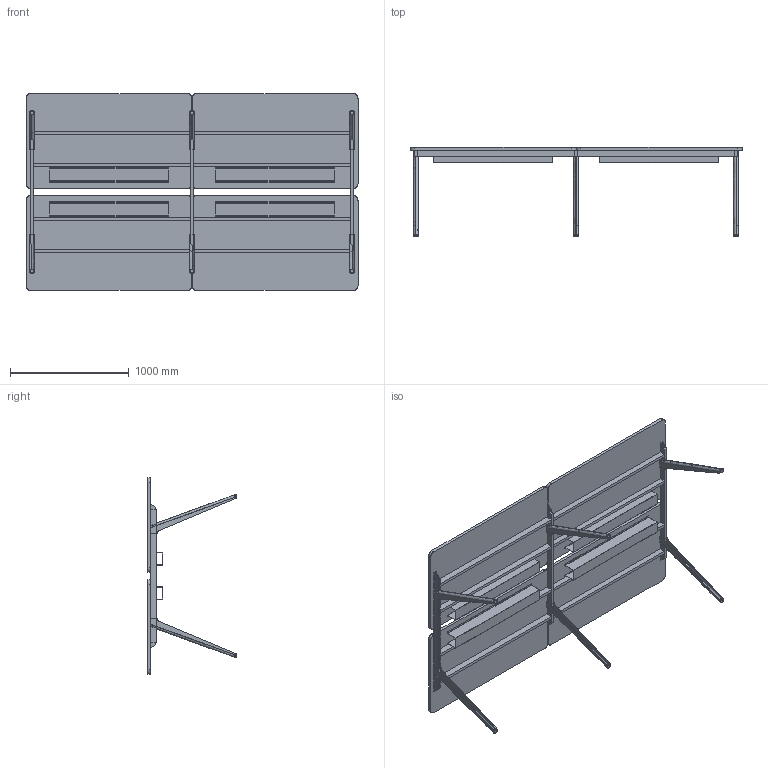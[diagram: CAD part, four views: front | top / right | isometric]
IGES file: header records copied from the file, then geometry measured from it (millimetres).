
Start section: SolidWorks IGES file using analytic representation for surfaces
Global section: file name: C:\Users\simone.cerana\OneDrive - Gruppo Tecno\Desktop\CHINA\DISEGNI DI SERIE\ASSIEMI LISTINO\HORIZON LISTINO\FULL OPTIONAL\HO2816FO.IGS; native system: SolidWorks 2024; preprocessor: SolidWorks 2024; author: simone.cerana; date: 260512.152329; units: millimetre
Bounding box: 2801 x 750.58 x 1660 mm (x, y, z)
Surface area: 14429283.4 mm2 (no closed solid volume)
Topology: 0 solids, 0 shells, 614 faces, 7166 edges, 7166 vertices
Faces by surface type: bspline 440, revolution 174
